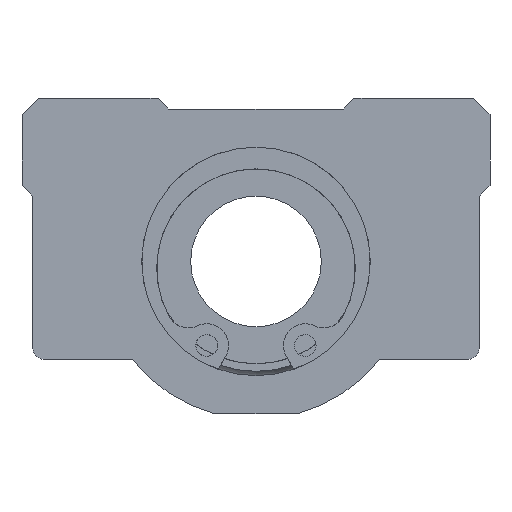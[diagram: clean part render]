
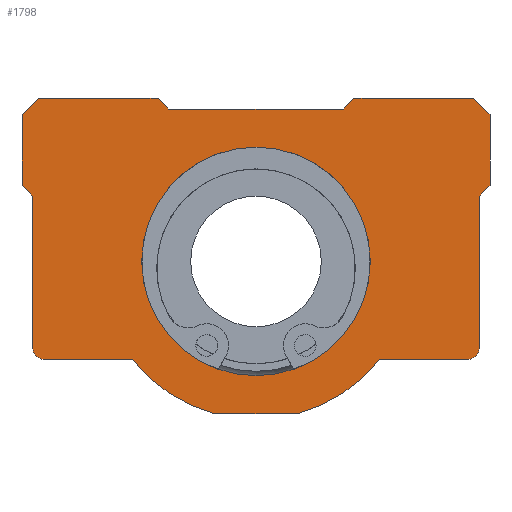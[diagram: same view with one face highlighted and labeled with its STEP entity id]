
A CAD part, left-side view. The second image highlights one B-rep face of the part: STEP entity #1798.
In plain terms, the highlighted planar face has unit normal (-1, 0, 0).
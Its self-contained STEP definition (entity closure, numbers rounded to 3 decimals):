
#1366=CARTESIAN_POINT('',(0.0,19.5,-9.));
#1367=VERTEX_POINT('',#1366);
#1374=CARTESIAN_POINT('',(0.0,20.5,-8.));
#1375=VERTEX_POINT('',#1374);
#1376=CARTESIAN_POINT('',(0.0,19.5,-8.));
#1377=DIRECTION('',(1.,0.0,0.0));
#1378=DIRECTION('',(0.0,0.707,-0.707));
#1379=AXIS2_PLACEMENT_3D('',#1376,#1377,#1378);
#1380=CIRCLE('',#1379,1.);
#1381=EDGE_CURVE('',#1367,#1375,#1380,.T.);
#1406=CARTESIAN_POINT('',(0.0,11.369,-9.));
#1407=VERTEX_POINT('',#1406);
#1414=CARTESIAN_POINT('',(0.0,11.369,-9.));
#1415=DIRECTION('',(0.0,1.0,0.0));
#1416=VECTOR('',#1415,8.131);
#1417=LINE('',#1414,#1416);
#1418=EDGE_CURVE('',#1407,#1367,#1417,.T.);
#1617=CARTESIAN_POINT('',(0.0,-20.5,-8.));
#1618=VERTEX_POINT('',#1617);
#1625=CARTESIAN_POINT('',(0.0,-19.5,-9.));
#1626=VERTEX_POINT('',#1625);
#1627=CARTESIAN_POINT('',(0.0,-19.5,-8.));
#1628=DIRECTION('',(1.0,0.0,0.0));
#1629=DIRECTION('',(0.0,-0.707,-0.707));
#1630=AXIS2_PLACEMENT_3D('',#1627,#1628,#1629);
#1631=CIRCLE('',#1630,1.0);
#1632=EDGE_CURVE('',#1618,#1626,#1631,.T.);
#1643=CARTESIAN_POINT('',(0.0,0.,1.785));
#1644=DIRECTION('',(1.0,0.0,0.0));
#1645=DIRECTION('',(0.0,0.0,-1.0));
#1646=AXIS2_PLACEMENT_3D('',#1643,#1644,#1645);
#1647=PLANE('',#1646);
#1648=ORIENTED_EDGE('',*,*,#1381,.F.);
#1649=ORIENTED_EDGE('',*,*,#1418,.F.);
#1650=CARTESIAN_POINT('',(0.0,3.775,-14.));
#1651=VERTEX_POINT('',#1650);
#1652=CARTESIAN_POINT('',(0.0,0.0,0.0));
#1653=DIRECTION('',(1.0,0.0,0.0));
#1654=DIRECTION('',(0.0,0.26,-0.966));
#1655=AXIS2_PLACEMENT_3D('',#1652,#1653,#1654);
#1656=CIRCLE('',#1655,14.5);
#1657=EDGE_CURVE('',#1651,#1407,#1656,.T.);
#1658=ORIENTED_EDGE('',*,*,#1657,.F.);
#1659=CARTESIAN_POINT('',(0.0,-3.775,-14.));
#1660=VERTEX_POINT('',#1659);
#1661=CARTESIAN_POINT('',(0.0,-3.775,-14.));
#1662=DIRECTION('',(0.0,1.0,0.0));
#1663=VECTOR('',#1662,7.55);
#1664=LINE('',#1661,#1663);
#1665=EDGE_CURVE('',#1660,#1651,#1664,.T.);
#1666=ORIENTED_EDGE('',*,*,#1665,.F.);
#1667=CARTESIAN_POINT('',(0.0,-11.369,-9.));
#1668=VERTEX_POINT('',#1667);
#1669=CARTESIAN_POINT('',(0.0,0.0,0.0));
#1670=DIRECTION('',(1.0,0.0,0.0));
#1671=DIRECTION('',(0.0,0.26,-0.966));
#1672=AXIS2_PLACEMENT_3D('',#1669,#1670,#1671);
#1673=CIRCLE('',#1672,14.5);
#1674=EDGE_CURVE('',#1668,#1660,#1673,.T.);
#1675=ORIENTED_EDGE('',*,*,#1674,.F.);
#1676=CARTESIAN_POINT('',(0.0,-19.5,-9.));
#1677=DIRECTION('',(0.0,1.0,0.0));
#1678=VECTOR('',#1677,8.131);
#1679=LINE('',#1676,#1678);
#1680=EDGE_CURVE('',#1626,#1668,#1679,.T.);
#1681=ORIENTED_EDGE('',*,*,#1680,.F.);
#1682=ORIENTED_EDGE('',*,*,#1632,.F.);
#1683=CARTESIAN_POINT('',(0.0,-20.5,6.));
#1684=VERTEX_POINT('',#1683);
#1685=CARTESIAN_POINT('',(0.0,-20.5,6.));
#1686=DIRECTION('',(0.0,0.0,-1.0));
#1687=VECTOR('',#1686,14.);
#1688=LINE('',#1685,#1687);
#1689=EDGE_CURVE('',#1684,#1618,#1688,.T.);
#1690=ORIENTED_EDGE('',*,*,#1689,.F.);
#1691=CARTESIAN_POINT('',(0.0,-21.5,7.));
#1692=VERTEX_POINT('',#1691);
#1693=CARTESIAN_POINT('',(0.0,-21.5,7.));
#1694=DIRECTION('',(0.0,0.707,-0.707));
#1695=VECTOR('',#1694,1.414);
#1696=LINE('',#1693,#1695);
#1697=EDGE_CURVE('',#1692,#1684,#1696,.T.);
#1698=ORIENTED_EDGE('',*,*,#1697,.F.);
#1699=CARTESIAN_POINT('',(0.0,-21.5,13.5));
#1700=VERTEX_POINT('',#1699);
#1701=CARTESIAN_POINT('',(0.0,-21.5,13.5));
#1702=DIRECTION('',(0.0,0.0,-1.0));
#1703=VECTOR('',#1702,6.5);
#1704=LINE('',#1701,#1703);
#1705=EDGE_CURVE('',#1700,#1692,#1704,.T.);
#1706=ORIENTED_EDGE('',*,*,#1705,.F.);
#1707=CARTESIAN_POINT('',(0.0,-20.,15.));
#1708=VERTEX_POINT('',#1707);
#1709=CARTESIAN_POINT('',(0.0,-20.,15.));
#1710=DIRECTION('',(0.0,-0.707,-0.707));
#1711=VECTOR('',#1710,2.121);
#1712=LINE('',#1709,#1711);
#1713=EDGE_CURVE('',#1708,#1700,#1712,.T.);
#1714=ORIENTED_EDGE('',*,*,#1713,.F.);
#1715=CARTESIAN_POINT('',(0.0,-9.0,15.));
#1716=VERTEX_POINT('',#1715);
#1717=CARTESIAN_POINT('',(0.0,-9.0,15.));
#1718=DIRECTION('',(0.0,-1.0,0.0));
#1719=VECTOR('',#1718,11.);
#1720=LINE('',#1717,#1719);
#1721=EDGE_CURVE('',#1716,#1708,#1720,.T.);
#1722=ORIENTED_EDGE('',*,*,#1721,.F.);
#1723=CARTESIAN_POINT('',(0.0,-8.,14.));
#1724=VERTEX_POINT('',#1723);
#1725=CARTESIAN_POINT('',(0.0,-8.,14.));
#1726=DIRECTION('',(0.0,-0.707,0.707));
#1727=VECTOR('',#1726,1.414);
#1728=LINE('',#1725,#1727);
#1729=EDGE_CURVE('',#1724,#1716,#1728,.T.);
#1730=ORIENTED_EDGE('',*,*,#1729,.F.);
#1731=CARTESIAN_POINT('',(0.0,8.,14.));
#1732=VERTEX_POINT('',#1731);
#1733=CARTESIAN_POINT('',(0.0,8.,14.));
#1734=DIRECTION('',(0.0,-1.0,0.0));
#1735=VECTOR('',#1734,16.);
#1736=LINE('',#1733,#1735);
#1737=EDGE_CURVE('',#1732,#1724,#1736,.T.);
#1738=ORIENTED_EDGE('',*,*,#1737,.F.);
#1739=CARTESIAN_POINT('',(0.0,9.0,15.));
#1740=VERTEX_POINT('',#1739);
#1741=CARTESIAN_POINT('',(0.0,9.0,15.));
#1742=DIRECTION('',(0.0,-0.707,-0.707));
#1743=VECTOR('',#1742,1.414);
#1744=LINE('',#1741,#1743);
#1745=EDGE_CURVE('',#1740,#1732,#1744,.T.);
#1746=ORIENTED_EDGE('',*,*,#1745,.F.);
#1747=CARTESIAN_POINT('',(0.0,20.0,15.));
#1748=VERTEX_POINT('',#1747);
#1749=CARTESIAN_POINT('',(0.0,20.0,15.));
#1750=DIRECTION('',(0.0,-1.0,0.0));
#1751=VECTOR('',#1750,11.0);
#1752=LINE('',#1749,#1751);
#1753=EDGE_CURVE('',#1748,#1740,#1752,.T.);
#1754=ORIENTED_EDGE('',*,*,#1753,.F.);
#1755=CARTESIAN_POINT('',(0.0,21.5,13.5));
#1756=VERTEX_POINT('',#1755);
#1757=CARTESIAN_POINT('',(0.0,21.5,13.5));
#1758=DIRECTION('',(0.0,-0.707,0.707));
#1759=VECTOR('',#1758,2.121);
#1760=LINE('',#1757,#1759);
#1761=EDGE_CURVE('',#1756,#1748,#1760,.T.);
#1762=ORIENTED_EDGE('',*,*,#1761,.F.);
#1763=CARTESIAN_POINT('',(0.0,21.5,7.));
#1764=VERTEX_POINT('',#1763);
#1765=CARTESIAN_POINT('',(0.0,21.5,7.));
#1766=DIRECTION('',(0.0,0.0,1.0));
#1767=VECTOR('',#1766,6.5);
#1768=LINE('',#1765,#1767);
#1769=EDGE_CURVE('',#1764,#1756,#1768,.T.);
#1770=ORIENTED_EDGE('',*,*,#1769,.F.);
#1771=CARTESIAN_POINT('',(0.0,20.5,6.));
#1772=VERTEX_POINT('',#1771);
#1773=CARTESIAN_POINT('',(0.0,20.5,6.));
#1774=DIRECTION('',(0.0,0.707,0.707));
#1775=VECTOR('',#1774,1.414);
#1776=LINE('',#1773,#1775);
#1777=EDGE_CURVE('',#1772,#1764,#1776,.T.);
#1778=ORIENTED_EDGE('',*,*,#1777,.F.);
#1779=CARTESIAN_POINT('',(0.0,20.5,-8.));
#1780=DIRECTION('',(0.0,0.0,1.0));
#1781=VECTOR('',#1780,14.);
#1782=LINE('',#1779,#1781);
#1783=EDGE_CURVE('',#1375,#1772,#1782,.T.);
#1784=ORIENTED_EDGE('',*,*,#1783,.F.);
#1785=EDGE_LOOP('',(#1648,#1649,#1658,#1666,#1675,#1681,#1682,#1690,#1698,#1706,#1714,#1722,#1730,#1738,#1746,#1754,#1762,#1770,#1778,#1784));
#1786=FACE_OUTER_BOUND('',#1785,.T.);
#1787=CARTESIAN_POINT('',(0.0,10.5,0.));
#1788=VERTEX_POINT('',#1787);
#1789=CARTESIAN_POINT('',(0.0,0.0,0.0));
#1790=DIRECTION('',(1.0,0.0,0.0));
#1791=DIRECTION('',(0.0,-1.0,0.0));
#1792=AXIS2_PLACEMENT_3D('',#1789,#1790,#1791);
#1793=CIRCLE('',#1792,10.5);
#1794=EDGE_CURVE('',#1788,#1788,#1793,.T.);
#1795=ORIENTED_EDGE('',*,*,#1794,.T.);
#1796=EDGE_LOOP('',(#1795));
#1797=FACE_BOUND('',#1796,.T.);
#1798=ADVANCED_FACE('',(#1786,#1797),#1647,.F.);
